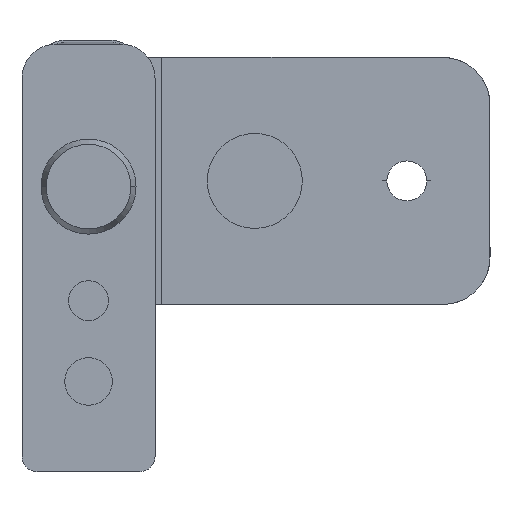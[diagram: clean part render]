
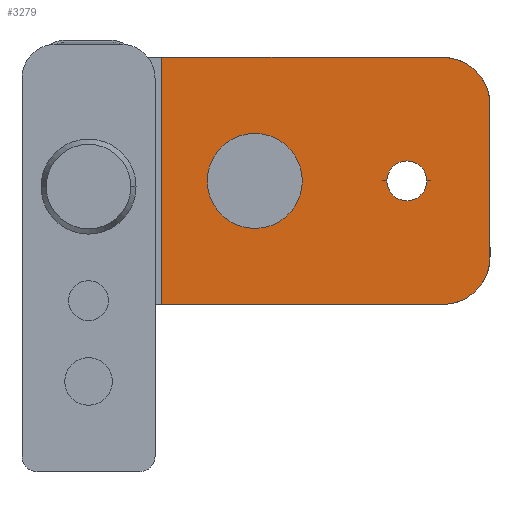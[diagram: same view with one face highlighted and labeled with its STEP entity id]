
A CAD part, front view. The second image highlights one B-rep face of the part: STEP entity #3279.
In plain terms, the highlighted planar face has unit normal (0, -1, 0).
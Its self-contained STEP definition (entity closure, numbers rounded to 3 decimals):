
#228 = VERTEX_POINT ( 'NONE', #2448 ) ;
#230 = VERTEX_POINT ( 'NONE', #2450 ) ;
#245 = VERTEX_POINT ( 'NONE', #543 ) ;
#249 = VERTEX_POINT ( 'NONE', #547 ) ;
#250 = VERTEX_POINT ( 'NONE', #548 ) ;
#251 = VERTEX_POINT ( 'NONE', #549 ) ;
#256 = CARTESIAN_POINT ( 'NONE',  ( 42.25, 297., 13.6 ) ) ;
#257 = DIRECTION ( 'NONE',  ( 0., 0., -1. ) ) ;
#471 = CARTESIAN_POINT ( 'NONE',  ( 42.25, 297., 13.6 ) ) ;
#472 = DIRECTION ( 'NONE',  ( -1., 0., 0. ) ) ;
#477 = CARTESIAN_POINT ( 'NONE',  ( 33.5, 297., 0.6 ) ) ;
#478 = DIRECTION ( 'NONE',  ( 0., -1., 0. ) ) ;
#479 = DIRECTION ( 'NONE',  ( 1., 0., 0. ) ) ;
#480 = CARTESIAN_POINT ( 'NONE',  ( 37.25, 297., 8.6 ) ) ;
#481 = DIRECTION ( 'NONE',  ( 0., 1., 0. ) ) ;
#482 = DIRECTION ( 'NONE',  ( 1., 0., 0. ) ) ;
#483 = CARTESIAN_POINT ( 'NONE',  ( 7.7, 297., 13.6 ) ) ;
#484 = DIRECTION ( 'NONE',  ( 0., 0., -1. ) ) ;
#485 = CARTESIAN_POINT ( 'NONE',  ( 42.25, 297., -12.4 ) ) ;
#486 = DIRECTION ( 'NONE',  ( -1., 0., 0. ) ) ;
#543 = CARTESIAN_POINT ( 'NONE',  ( 7.7, 297., -12.4 ) ) ;
#547 = CARTESIAN_POINT ( 'NONE',  ( 37.25, 297., -12.4 ) ) ;
#548 = CARTESIAN_POINT ( 'NONE',  ( 42.25, 297., 8.6 ) ) ;
#549 = CARTESIAN_POINT ( 'NONE',  ( 37.25, 297., 13.6 ) ) ;
#757 = AXIS2_PLACEMENT_3D ( 'NONE', #3235, #3236, #3237 ) ;
#765 = AXIS2_PLACEMENT_3D ( 'NONE', #3422, #3423, #3424 ) ;
#774 = AXIS2_PLACEMENT_3D ( 'NONE', #477, #478, #479 ) ;
#775 = AXIS2_PLACEMENT_3D ( 'NONE', #480, #481, #482 ) ;
#794 = AXIS2_PLACEMENT_3D ( 'NONE', #1630, #1631, #1632 ) ;
#963 = CIRCLE ( 'NONE', #757, 5. ) ;
#1408 = ORIENTED_EDGE ( 'NONE', *, *, #1448, .F. ) ;
#1409 = ORIENTED_EDGE ( 'NONE', *, *, #2464, .F. ) ;
#1410 = ORIENTED_EDGE ( 'NONE', *, *, #2463, .T. ) ;
#1411 = ORIENTED_EDGE ( 'NONE', *, *, #2458, .T. ) ;
#1412 = ORIENTED_EDGE ( 'NONE', *, *, #2462, .F. ) ;
#1413 = ORIENTED_EDGE ( 'NONE', *, *, #4529, .F. ) ;
#1414 = ORIENTED_EDGE ( 'NONE', *, *, #2461, .F. ) ;
#1415 = ORIENTED_EDGE ( 'NONE', *, *, #1681, .F. ) ;
#1448 = EDGE_CURVE ( 'NONE', #230, #249, #963, .T. ) ;
#1629 = PLANE ( 'NONE',  #794 ) ;
#1630 = CARTESIAN_POINT ( 'NONE',  ( 42.25, 297., 13.6 ) ) ;
#1631 = DIRECTION ( 'NONE',  ( 0., 1., 0. ) ) ;
#1632 = DIRECTION ( 'NONE',  ( 1., 0., 0. ) ) ;
#1681 = EDGE_CURVE ( 'NONE', #1727, #1683, #3808, .T. ) ;
#1683 = VERTEX_POINT ( 'NONE', #3427 ) ;
#1727 = VERTEX_POINT ( 'NONE', #3471 ) ;
#2325 = EDGE_LOOP ( 'NONE', ( #1413, #1412, #1411, #1410, #1409, #1408 ) ) ;
#2326 = EDGE_LOOP ( 'NONE', ( #1415, #1414 ) ) ;
#2448 = CARTESIAN_POINT ( 'NONE',  ( 7.7, 297., 13.6 ) ) ;
#2450 = CARTESIAN_POINT ( 'NONE',  ( 42.25, 297., -7.4 ) ) ;
#2458 = EDGE_CURVE ( 'NONE', #251, #228, #3873, .T. ) ;
#2461 = EDGE_CURVE ( 'NONE', #1683, #1727, #3880, .T. ) ;
#2462 = EDGE_CURVE ( 'NONE', #251, #250, #3882, .T. ) ;
#2463 = EDGE_CURVE ( 'NONE', #228, #245, #3881, .T. ) ;
#2464 = EDGE_CURVE ( 'NONE', #249, #245, #3884, .T. ) ;
#3235 = CARTESIAN_POINT ( 'NONE',  ( 37.25, 297., -7.4 ) ) ;
#3236 = DIRECTION ( 'NONE',  ( 0., 1., 0. ) ) ;
#3237 = DIRECTION ( 'NONE',  ( 1., 0., 0. ) ) ;
#3279 = ADVANCED_FACE ( 'NONE', ( #3953, #3954 ), #1629, .F. ) ;
#3422 = CARTESIAN_POINT ( 'NONE',  ( 33.5, 297., 0.6 ) ) ;
#3423 = DIRECTION ( 'NONE',  ( 0., -1., 0. ) ) ;
#3424 = DIRECTION ( 'NONE',  ( 1., 0., 0. ) ) ;
#3427 = CARTESIAN_POINT ( 'NONE',  ( 31.4, 297., 0.6 ) ) ;
#3471 = CARTESIAN_POINT ( 'NONE',  ( 35.6, 297., 0.6 ) ) ;
#3808 = CIRCLE ( 'NONE', #765, 2.1 ) ;
#3873 = LINE ( 'NONE', #471, #3875 ) ;
#3875 = VECTOR ( 'NONE', #472, 1000. ) ;
#3880 = CIRCLE ( 'NONE', #774, 2.1 ) ;
#3881 = LINE ( 'NONE', #483, #3883 ) ;
#3882 = CIRCLE ( 'NONE', #775, 5. ) ;
#3883 = VECTOR ( 'NONE', #484, 1000. ) ;
#3884 = LINE ( 'NONE', #485, #3885 ) ;
#3885 = VECTOR ( 'NONE', #486, 1000. ) ;
#3953 = FACE_BOUND ( 'NONE', #2326, .T. ) ;
#3954 = FACE_OUTER_BOUND ( 'NONE', #2325, .T. ) ;
#4259 = LINE ( 'NONE', #256, #4260 ) ;
#4260 = VECTOR ( 'NONE', #257, 1000. ) ;
#4529 = EDGE_CURVE ( 'NONE', #250, #230, #4259, .T. ) ;
